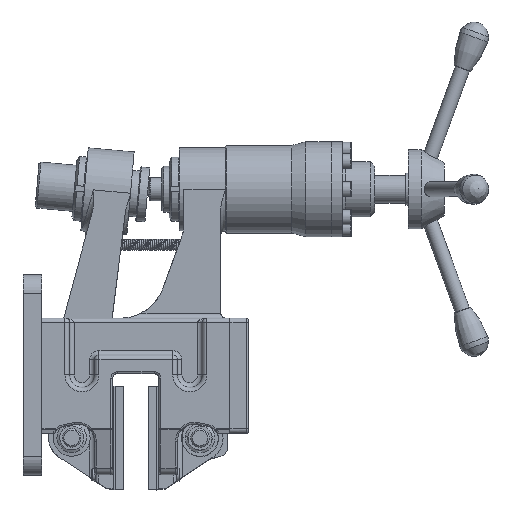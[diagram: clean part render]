
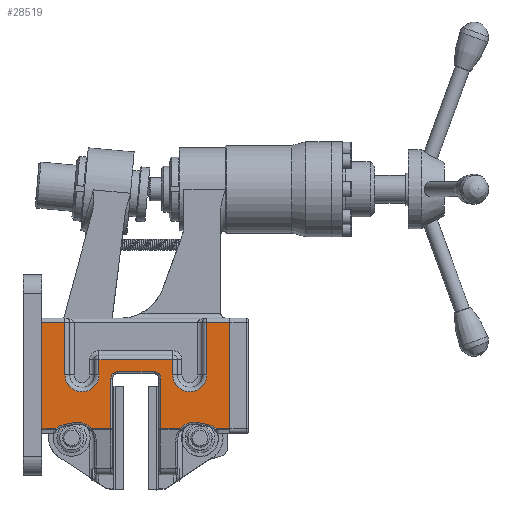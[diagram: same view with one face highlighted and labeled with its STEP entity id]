
A CAD part, top view. The second image highlights one B-rep face of the part: STEP entity #28519.
In plain terms, the highlighted planar face has unit normal (0, 0, 1).
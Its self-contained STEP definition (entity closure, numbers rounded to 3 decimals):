
#1318=PLANE('',#30694);
#2497=FACE_OUTER_BOUND('',#4104,.T.);
#4104=EDGE_LOOP('',(#20899,#20900,#20901,#20902,#20903,#20904,#20905,#20906,
#20907,#20908,#20909,#20910,#20911,#20912,#20913,#20914,#20915,#20916,#20917,
#20918,#20919,#20920,#20921,#20922,#20923,#20924));
#5914=LINE('',#51304,#7927);
#5916=LINE('',#51321,#7929);
#5919=LINE('',#51333,#7932);
#5921=LINE('',#51343,#7934);
#5923=LINE('',#51352,#7936);
#5924=LINE('',#51355,#7937);
#5926=LINE('',#51366,#7939);
#5957=LINE('',#51625,#7970);
#5958=LINE('',#51633,#7971);
#5959=LINE('',#51641,#7972);
#5965=LINE('',#51674,#7978);
#5966=LINE('',#51682,#7979);
#5970=LINE('',#51747,#7983);
#5978=LINE('',#51829,#7991);
#5979=LINE('',#51835,#7992);
#5980=LINE('',#51837,#7993);
#5981=LINE('',#51839,#7994);
#5982=LINE('',#51840,#7995);
#7927=VECTOR('',#35496,5.);
#7929=VECTOR('',#35516,10.);
#7932=VECTOR('',#35531,10.);
#7934=VECTOR('',#35543,10.);
#7936=VECTOR('',#35551,5.);
#7937=VECTOR('',#35554,10.);
#7939=VECTOR('',#35568,10.);
#7970=VECTOR('',#35703,10.);
#7971=VECTOR('',#35714,10.);
#7972=VECTOR('',#35725,10.);
#7978=VECTOR('',#35759,10.);
#7979=VECTOR('',#35762,10.);
#7983=VECTOR('',#35800,10.);
#7991=VECTOR('',#35832,10.);
#7992=VECTOR('',#35837,10.);
#7993=VECTOR('',#35840,10.);
#7994=VECTOR('',#35841,10.);
#7995=VECTOR('',#35842,10.);
#9754=CIRCLE('',#30569,18.5);
#9763=CIRCLE('',#30584,18.5);
#9791=CIRCLE('',#30642,7.);
#9794=CIRCLE('',#30647,7.);
#9810=CIRCLE('',#30679,20.);
#9813=CIRCLE('',#30684,18.);
#9817=CIRCLE('',#30695,18.);
#9818=CIRCLE('',#30696,20.);
#11892=VERTEX_POINT('',#51301);
#11893=VERTEX_POINT('',#51303);
#11895=VERTEX_POINT('',#51309);
#11899=VERTEX_POINT('',#51320);
#11901=VERTEX_POINT('',#51326);
#11903=VERTEX_POINT('',#51335);
#11906=VERTEX_POINT('',#51345);
#11909=VERTEX_POINT('',#51350);
#11910=VERTEX_POINT('',#51354);
#11912=VERTEX_POINT('',#51360);
#11934=VERTEX_POINT('',#51620);
#11935=VERTEX_POINT('',#51624);
#11936=VERTEX_POINT('',#51628);
#11937=VERTEX_POINT('',#51632);
#11938=VERTEX_POINT('',#51636);
#11939=VERTEX_POINT('',#51640);
#11947=VERTEX_POINT('',#51667);
#11948=VERTEX_POINT('',#51672);
#11949=VERTEX_POINT('',#51676);
#11953=VERTEX_POINT('',#51741);
#11954=VERTEX_POINT('',#51745);
#11960=VERTEX_POINT('',#51824);
#11961=VERTEX_POINT('',#51831);
#11962=VERTEX_POINT('',#51832);
#11963=VERTEX_POINT('',#51834);
#11964=VERTEX_POINT('',#51838);
#15101=EDGE_CURVE('',#11892,#11893,#5914,.T.);
#15109=EDGE_CURVE('',#11893,#11899,#5916,.T.);
#15112=EDGE_CURVE('',#11899,#11901,#9754,.T.);
#15116=EDGE_CURVE('',#11901,#11895,#5919,.T.);
#15121=EDGE_CURVE('',#11895,#11903,#5921,.T.);
#15125=EDGE_CURVE('',#11909,#11906,#5923,.T.);
#15126=EDGE_CURVE('',#11903,#11910,#5924,.T.);
#15129=EDGE_CURVE('',#11910,#11912,#9763,.T.);
#15132=EDGE_CURVE('',#11912,#11909,#5926,.T.);
#15189=EDGE_CURVE('',#11934,#11935,#5957,.T.);
#15191=EDGE_CURVE('',#11935,#11936,#9791,.T.);
#15193=EDGE_CURVE('',#11936,#11937,#5958,.T.);
#15195=EDGE_CURVE('',#11937,#11938,#9794,.T.);
#15197=EDGE_CURVE('',#11938,#11939,#5959,.T.);
#15212=EDGE_CURVE('',#11948,#11947,#5965,.T.);
#15214=EDGE_CURVE('',#11949,#11934,#5966,.T.);
#15226=EDGE_CURVE('',#11953,#11949,#9810,.T.);
#15228=EDGE_CURVE('',#11954,#11953,#5970,.T.);
#15230=EDGE_CURVE('',#11947,#11954,#9813,.T.);
#15244=EDGE_CURVE('',#11939,#11960,#5978,.T.);
#15245=EDGE_CURVE('',#11961,#11962,#9817,.T.);
#15246=EDGE_CURVE('',#11963,#11961,#5979,.T.);
#15247=EDGE_CURVE('',#11960,#11963,#9818,.T.);
#15248=EDGE_CURVE('',#11948,#11906,#5980,.T.);
#15249=EDGE_CURVE('',#11892,#11964,#5981,.T.);
#15250=EDGE_CURVE('',#11962,#11964,#5982,.T.);
#20899=ORIENTED_EDGE('',*,*,#15245,.F.);
#20900=ORIENTED_EDGE('',*,*,#15246,.F.);
#20901=ORIENTED_EDGE('',*,*,#15247,.F.);
#20902=ORIENTED_EDGE('',*,*,#15244,.F.);
#20903=ORIENTED_EDGE('',*,*,#15197,.F.);
#20904=ORIENTED_EDGE('',*,*,#15195,.F.);
#20905=ORIENTED_EDGE('',*,*,#15193,.F.);
#20906=ORIENTED_EDGE('',*,*,#15191,.F.);
#20907=ORIENTED_EDGE('',*,*,#15189,.F.);
#20908=ORIENTED_EDGE('',*,*,#15214,.F.);
#20909=ORIENTED_EDGE('',*,*,#15226,.F.);
#20910=ORIENTED_EDGE('',*,*,#15228,.F.);
#20911=ORIENTED_EDGE('',*,*,#15230,.F.);
#20912=ORIENTED_EDGE('',*,*,#15212,.F.);
#20913=ORIENTED_EDGE('',*,*,#15248,.T.);
#20914=ORIENTED_EDGE('',*,*,#15125,.F.);
#20915=ORIENTED_EDGE('',*,*,#15132,.F.);
#20916=ORIENTED_EDGE('',*,*,#15129,.F.);
#20917=ORIENTED_EDGE('',*,*,#15126,.F.);
#20918=ORIENTED_EDGE('',*,*,#15121,.F.);
#20919=ORIENTED_EDGE('',*,*,#15116,.F.);
#20920=ORIENTED_EDGE('',*,*,#15112,.F.);
#20921=ORIENTED_EDGE('',*,*,#15109,.F.);
#20922=ORIENTED_EDGE('',*,*,#15101,.F.);
#20923=ORIENTED_EDGE('',*,*,#15249,.T.);
#20924=ORIENTED_EDGE('',*,*,#15250,.F.);
#28519=ADVANCED_FACE('',(#2497),#1318,.T.);
#30569=AXIS2_PLACEMENT_3D('',#51327,#35522,#35523);
#30584=AXIS2_PLACEMENT_3D('',#51361,#35560,#35561);
#30642=AXIS2_PLACEMENT_3D('',#51629,#35708,#35709);
#30647=AXIS2_PLACEMENT_3D('',#51637,#35719,#35720);
#30679=AXIS2_PLACEMENT_3D('',#51743,#35794,#35795);
#30684=AXIS2_PLACEMENT_3D('',#51750,#35805,#35806);
#30694=AXIS2_PLACEMENT_3D('',#51830,#35833,#35834);
#30695=AXIS2_PLACEMENT_3D('',#51833,#35835,#35836);
#30696=AXIS2_PLACEMENT_3D('',#51836,#35838,#35839);
#35496=DIRECTION('',(1.,0.,0.));
#35516=DIRECTION('',(0.,-1.,0.));
#35522=DIRECTION('center_axis',(0.,0.,
1.));
#35523=DIRECTION('ref_axis',(0.,-1.,0.));
#35531=DIRECTION('',(0.,1.,0.));
#35543=DIRECTION('',(1.,0.,0.));
#35551=DIRECTION('',(1.,0.,0.));
#35554=DIRECTION('',(0.,-1.,0.));
#35560=DIRECTION('center_axis',(0.,0.,
1.));
#35561=DIRECTION('ref_axis',(0.,-1.,0.));
#35568=DIRECTION('',(0.,1.,0.));
#35703=DIRECTION('',(0.,1.,0.));
#35708=DIRECTION('center_axis',(0.,0.,
1.));
#35709=DIRECTION('ref_axis',(0.707,0.707,0.));
#35714=DIRECTION('',(-1.,0.,0.));
#35719=DIRECTION('center_axis',(0.,0.,
1.));
#35720=DIRECTION('ref_axis',(-0.707,0.707,0.));
#35725=DIRECTION('',(0.,-1.,0.));
#35759=DIRECTION('',(-1.,0.,0.));
#35762=DIRECTION('',(-1.,0.,0.));
#35794=DIRECTION('center_axis',(0.,0.,
1.));
#35795=DIRECTION('ref_axis',(-0.29,0.957,0.));
#35800=DIRECTION('',(-0.985,0.174,0.));
#35805=DIRECTION('center_axis',(0.,0.,
1.));
#35806=DIRECTION('ref_axis',(0.388,0.922,0.));
#35832=DIRECTION('',(-1.,0.,0.));
#35833=DIRECTION('center_axis',(0.,0.,
1.));
#35834=DIRECTION('ref_axis',(1.,0.,0.));
#35835=DIRECTION('center_axis',(0.,0.,
1.));
#35836=DIRECTION('ref_axis',(-0.388,0.922,0.));
#35837=DIRECTION('',(-0.985,-0.174,0.));
#35838=DIRECTION('center_axis',(0.,0.,
1.));
#35839=DIRECTION('ref_axis',(0.29,0.957,0.));
#35840=DIRECTION('',(0.,1.,0.));
#35841=DIRECTION('',(0.,-1.,0.));
#35842=DIRECTION('',(-1.,0.,0.));
#51301=CARTESIAN_POINT('',(-102.,165.,285.));
#51303=CARTESIAN_POINT('',(-77.,165.,285.));
#51304=CARTESIAN_POINT('',(102.,165.,285.));
#51309=CARTESIAN_POINT('',(-40.,125.,285.));
#51320=CARTESIAN_POINT('',(-77.,108.5,285.));
#51321=CARTESIAN_POINT('',(-77.,99.315,285.));
#51326=CARTESIAN_POINT('',(-40.,108.5,285.));
#51327=CARTESIAN_POINT('Origin',(-58.5,108.5,285.));
#51333=CARTESIAN_POINT('',(-40.,107.565,285.));
#51335=CARTESIAN_POINT('',(40.,125.,285.));
#51343=CARTESIAN_POINT('',(20.,125.,285.));
#51345=CARTESIAN_POINT('',(102.,165.,285.));
#51350=CARTESIAN_POINT('',(77.,165.,285.));
#51352=CARTESIAN_POINT('',(0.,165.,285.));
#51354=CARTESIAN_POINT('',(40.,108.5,285.));
#51355=CARTESIAN_POINT('',(40.,99.315,285.));
#51360=CARTESIAN_POINT('',(77.,108.5,285.));
#51361=CARTESIAN_POINT('Origin',(58.5,108.5,285.));
#51366=CARTESIAN_POINT('',(77.,127.565,285.));
#51620=CARTESIAN_POINT('',(27.,50.,285.));
#51624=CARTESIAN_POINT('',(27.,105.,285.));
#51625=CARTESIAN_POINT('',(27.,97.565,285.));
#51628=CARTESIAN_POINT('',(20.,112.,285.));
#51629=CARTESIAN_POINT('Origin',(20.,105.,285.));
#51632=CARTESIAN_POINT('',(-20.,112.,285.));
#51633=CARTESIAN_POINT('',(-10.,112.,285.));
#51636=CARTESIAN_POINT('',(-27.,105.,285.));
#51637=CARTESIAN_POINT('Origin',(-20.,105.,285.));
#51640=CARTESIAN_POINT('',(-27.,50.,285.));
#51641=CARTESIAN_POINT('',(-27.,45.065,285.));
#51667=CARTESIAN_POINT('',(86.95,50.,285.));
#51672=CARTESIAN_POINT('',(102.,50.,285.));
#51674=CARTESIAN_POINT('',(-102.,50.,285.));
#51676=CARTESIAN_POINT('',(47.801,50.,285.));
#51682=CARTESIAN_POINT('',(-102.,50.,285.));
#51741=CARTESIAN_POINT('',(66.478,56.695,285.));
#51743=CARTESIAN_POINT('Origin',(63.,37.,285.));
#51745=CARTESIAN_POINT('',(77.63,54.726,285.));
#51747=CARTESIAN_POINT('',(31.381,62.893,285.));
#51750=CARTESIAN_POINT('Origin',(74.5,37.,285.));
#51824=CARTESIAN_POINT('',(-47.801,50.,285.));
#51829=CARTESIAN_POINT('',(-102.,50.,285.));
#51830=CARTESIAN_POINT('Origin',(0.,90.129,
285.));
#51831=CARTESIAN_POINT('',(-77.63,54.726,285.));
#51832=CARTESIAN_POINT('',(-86.95,50.,285.));
#51833=CARTESIAN_POINT('Origin',(-74.5,37.,285.));
#51834=CARTESIAN_POINT('',(-66.478,56.695,285.));
#51835=CARTESIAN_POINT('',(-36.958,61.909,285.));
#51836=CARTESIAN_POINT('Origin',(-63.,37.,285.));
#51837=CARTESIAN_POINT('',(102.,170.,285.));
#51838=CARTESIAN_POINT('',(-102.,50.,285.));
#51839=CARTESIAN_POINT('',(-102.,45.,285.));
#51840=CARTESIAN_POINT('',(-102.,50.,285.));
